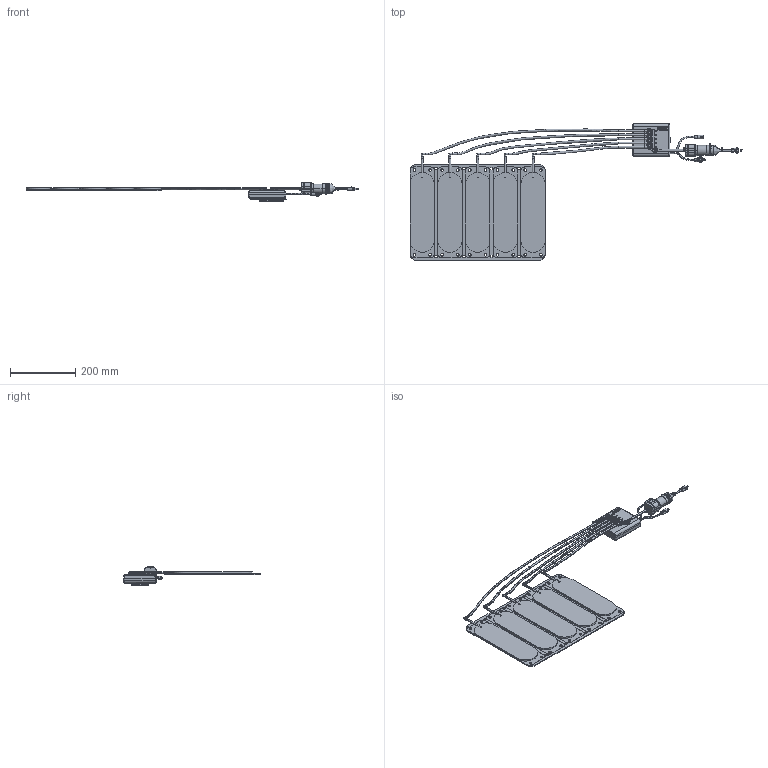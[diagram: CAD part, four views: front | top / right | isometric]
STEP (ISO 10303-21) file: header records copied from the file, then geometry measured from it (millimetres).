
FILE_DESCRIPTION (( 'STEP AP214' ), '1' );
FILE_NAME ('3D_TAM1.4.8.STEP', '2022-04-08T02:11:11', ( '' ), ( '' ), 'SwSTEP 2.0', 'SolidWorks 2015', '' );
FILE_SCHEMA (( 'AUTOMOTIVE_DESIGN' ));
Length unit declared in the file: inch
Products named in the file (1): 3D_TAM1.4.8
Bounding box: 1018.48 x 420.3 x 55.81 mm (x, y, z)
Volume: 1235133.9 mm3; surface area: 678509 mm2
Topology: 53 solids, 58 shells, 2977 faces, 7425 edges, 4647 vertices
Faces by surface type: plane 1206, cylinder 1051, bspline 676, cone 44
Entity records: 149270 total; most frequent: CARTESIAN_POINT 78362, ORIENTED_EDGE 15700, DIRECTION 12938, EDGE_CURVE 7850, VERTEX_POINT 4951, AXIS2_PLACEMENT_3D 4545, VECTOR 3848, LINE 3848
